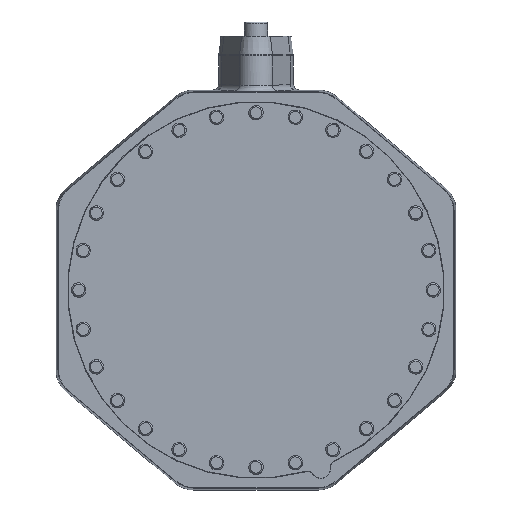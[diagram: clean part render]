
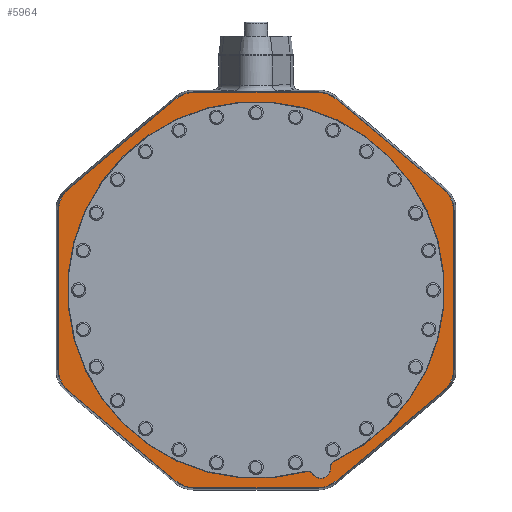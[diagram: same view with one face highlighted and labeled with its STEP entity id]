
A CAD part, front view. The second image highlights one B-rep face of the part: STEP entity #5964.
In plain terms, the highlighted planar face has unit normal (0, -1, 0) as drawn and (0, 0, 1) by its records, which use the part's own axes.
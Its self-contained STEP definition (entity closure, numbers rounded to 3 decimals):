
#5964=ADVANCED_FACE('',(#7983,#7984),#6615,.T.);
#6615=PLANE('',#14560);
#6895=LINE('',#18409,#7439);
#6896=LINE('',#18414,#7440);
#6897=LINE('',#18418,#7441);
#6898=LINE('',#18422,#7442);
#6899=LINE('',#18426,#7443);
#6900=LINE('',#18430,#7444);
#6901=LINE('',#18434,#7445);
#6902=LINE('',#18438,#7446);
#7439=VECTOR('',#15660,1.);
#7440=VECTOR('',#15663,1.);
#7441=VECTOR('',#15666,1.);
#7442=VECTOR('',#15669,1.);
#7443=VECTOR('',#15672,1.);
#7444=VECTOR('',#15675,1.);
#7445=VECTOR('',#15678,1.);
#7446=VECTOR('',#15681,1.);
#7983=FACE_BOUND('',#8194,.T.);
#7984=FACE_BOUND('',#8195,.T.);
#8194=EDGE_LOOP('',(#8980,#8981,#8982,#8983));
#8195=EDGE_LOOP('',(#8984,#8985,#8986,#8987,#8988,#8989,#8990,#8991,#8992,
#8993,#8994,#8995,#8996,#8997,#8998,#8999));
#8980=ORIENTED_EDGE('',*,*,#12704,.T.);
#8981=ORIENTED_EDGE('',*,*,#12705,.T.);
#8982=ORIENTED_EDGE('',*,*,#12706,.T.);
#8983=ORIENTED_EDGE('',*,*,#12707,.T.);
#8984=ORIENTED_EDGE('',*,*,#12708,.T.);
#8985=ORIENTED_EDGE('',*,*,#12709,.T.);
#8986=ORIENTED_EDGE('',*,*,#12710,.T.);
#8987=ORIENTED_EDGE('',*,*,#12711,.T.);
#8988=ORIENTED_EDGE('',*,*,#12712,.F.);
#8989=ORIENTED_EDGE('',*,*,#12713,.T.);
#8990=ORIENTED_EDGE('',*,*,#12714,.T.);
#8991=ORIENTED_EDGE('',*,*,#12715,.T.);
#8992=ORIENTED_EDGE('',*,*,#12716,.T.);
#8993=ORIENTED_EDGE('',*,*,#12717,.T.);
#8994=ORIENTED_EDGE('',*,*,#12718,.F.);
#8995=ORIENTED_EDGE('',*,*,#12719,.T.);
#8996=ORIENTED_EDGE('',*,*,#12720,.F.);
#8997=ORIENTED_EDGE('',*,*,#12721,.T.);
#8998=ORIENTED_EDGE('',*,*,#12722,.T.);
#8999=ORIENTED_EDGE('',*,*,#12723,.T.);
#11804=VERTEX_POINT('',#18402);
#11805=VERTEX_POINT('',#18403);
#11806=VERTEX_POINT('',#18405);
#11807=VERTEX_POINT('',#18407);
#11808=VERTEX_POINT('',#18410);
#11809=VERTEX_POINT('',#18411);
#11810=VERTEX_POINT('',#18413);
#11811=VERTEX_POINT('',#18415);
#11812=VERTEX_POINT('',#18417);
#11813=VERTEX_POINT('',#18419);
#11814=VERTEX_POINT('',#18421);
#11815=VERTEX_POINT('',#18423);
#11816=VERTEX_POINT('',#18425);
#11817=VERTEX_POINT('',#18427);
#11818=VERTEX_POINT('',#18429);
#11819=VERTEX_POINT('',#18431);
#11820=VERTEX_POINT('',#18433);
#11821=VERTEX_POINT('',#18435);
#11822=VERTEX_POINT('',#18437);
#11823=VERTEX_POINT('',#18439);
#12704=EDGE_CURVE('',#11804,#11805,#14116,.T.);
#12705=EDGE_CURVE('',#11805,#11806,#14117,.T.);
#12706=EDGE_CURVE('',#11806,#11807,#14118,.T.);
#12707=EDGE_CURVE('',#11807,#11804,#14119,.T.);
#12708=EDGE_CURVE('',#11808,#11809,#6895,.T.);
#12709=EDGE_CURVE('',#11809,#11810,#14120,.T.);
#12710=EDGE_CURVE('',#11810,#11811,#6896,.T.);
#12711=EDGE_CURVE('',#11811,#11812,#14121,.T.);
#12712=EDGE_CURVE('',#11813,#11812,#6897,.T.);
#12713=EDGE_CURVE('',#11813,#11814,#14122,.T.);
#12714=EDGE_CURVE('',#11814,#11815,#6898,.T.);
#12715=EDGE_CURVE('',#11815,#11816,#14123,.T.);
#12716=EDGE_CURVE('',#11816,#11817,#6899,.T.);
#12717=EDGE_CURVE('',#11817,#11818,#14124,.T.);
#12718=EDGE_CURVE('',#11819,#11818,#6900,.T.);
#12719=EDGE_CURVE('',#11819,#11820,#14125,.T.);
#12720=EDGE_CURVE('',#11821,#11820,#6901,.T.);
#12721=EDGE_CURVE('',#11821,#11822,#14126,.T.);
#12722=EDGE_CURVE('',#11822,#11823,#6902,.T.);
#12723=EDGE_CURVE('',#11823,#11808,#14127,.T.);
#14116=CIRCLE('',#14548,6.8);
#14117=CIRCLE('',#14549,4.7);
#14118=CIRCLE('',#14550,130.8);
#14119=CIRCLE('',#14551,4.7);
#14120=CIRCLE('',#14552,20.);
#14121=CIRCLE('',#14553,20.);
#14122=CIRCLE('',#14554,20.);
#14123=CIRCLE('',#14555,20.);
#14124=CIRCLE('',#14556,20.);
#14125=CIRCLE('',#14557,20.);
#14126=CIRCLE('',#14558,20.);
#14127=CIRCLE('',#14559,20.);
#14548=AXIS2_PLACEMENT_3D('',#18401,#15652,#15653);
#14549=AXIS2_PLACEMENT_3D('',#18404,#15654,#15655);
#14550=AXIS2_PLACEMENT_3D('',#18406,#15656,#15657);
#14551=AXIS2_PLACEMENT_3D('',#18408,#15658,#15659);
#14552=AXIS2_PLACEMENT_3D('',#18412,#15661,#15662);
#14553=AXIS2_PLACEMENT_3D('',#18416,#15664,#15665);
#14554=AXIS2_PLACEMENT_3D('',#18420,#15667,#15668);
#14555=AXIS2_PLACEMENT_3D('',#18424,#15670,#15671);
#14556=AXIS2_PLACEMENT_3D('',#18428,#15673,#15674);
#14557=AXIS2_PLACEMENT_3D('',#18432,#15676,#15677);
#14558=AXIS2_PLACEMENT_3D('',#18436,#15679,#15680);
#14559=AXIS2_PLACEMENT_3D('',#18440,#15682,#15683);
#14560=AXIS2_PLACEMENT_3D('',#18441,#15684,#15685);
#15652=DIRECTION('',(0.,0.,-1.));
#15653=DIRECTION('',(1.,0.,0.));
#15654=DIRECTION('',(0.,0.,1.));
#15655=DIRECTION('',(1.,0.,0.));
#15656=DIRECTION('',(0.,0.,-1.));
#15657=DIRECTION('',(1.,0.,0.));
#15658=DIRECTION('',(0.,0.,1.));
#15659=DIRECTION('',(1.,0.,0.));
#15660=DIRECTION('',(-0.766,-0.643,0.));
#15661=DIRECTION('',(0.,0.,1.));
#15662=DIRECTION('',(1.,0.,0.));
#15663=DIRECTION('',(0.,-1.,0.));
#15664=DIRECTION('',(0.,0.,1.));
#15665=DIRECTION('',(1.,0.,0.));
#15666=DIRECTION('',(-0.766,0.643,0.));
#15667=DIRECTION('',(0.,0.,1.));
#15668=DIRECTION('',(1.,0.,0.));
#15669=DIRECTION('',(1.,0.,0.));
#15670=DIRECTION('',(0.,0.,1.));
#15671=DIRECTION('',(1.,0.,0.));
#15672=DIRECTION('',(0.766,0.643,0.));
#15673=DIRECTION('',(0.,0.,1.));
#15674=DIRECTION('',(1.,0.,0.));
#15675=DIRECTION('',(0.,-1.,0.));
#15676=DIRECTION('',(0.,0.,1.));
#15677=DIRECTION('',(1.,0.,0.));
#15678=DIRECTION('',(0.766,-0.643,0.));
#15679=DIRECTION('',(0.,0.,1.));
#15680=DIRECTION('',(1.,0.,0.));
#15681=DIRECTION('',(-1.,0.,0.));
#15682=DIRECTION('',(0.,0.,1.));
#15683=DIRECTION('',(1.,0.,0.));
#15684=DIRECTION('',(0.,0.,1.));
#15685=DIRECTION('',(1.,0.,0.));
#18401=CARTESIAN_POINT('',(45.,-124.,124.78));
#18402=CARTESIAN_POINT('',(51.782,-123.51,124.78));
#18403=CARTESIAN_POINT('',(39.482,-127.974,124.78));
#18404=CARTESIAN_POINT('',(35.669,-130.721,124.78));
#18405=CARTESIAN_POINT('',(34.431,-126.187,124.78));
#18406=CARTESIAN_POINT('',(0.,0.,124.78));
#18407=CARTESIAN_POINT('',(54.511,-118.9,124.78));
#18408=CARTESIAN_POINT('',(56.47,-123.172,124.78));
#18409=CARTESIAN_POINT('',(-49.955,137.25,124.78));
#18410=CARTESIAN_POINT('',(-55.531,132.571,124.78));
#18411=CARTESIAN_POINT('',(-130.106,69.995,124.78));
#18412=CARTESIAN_POINT('',(-117.25,54.675,124.78));
#18413=CARTESIAN_POINT('',(-137.25,54.675,124.78));
#18414=CARTESIAN_POINT('',(-137.25,64.001,124.78));
#18415=CARTESIAN_POINT('',(-137.25,-54.675,124.78));
#18416=CARTESIAN_POINT('',(-117.25,-54.675,124.78));
#18417=CARTESIAN_POINT('',(-130.106,-69.995,124.78));
#18418=CARTESIAN_POINT('',(-49.955,-137.25,124.78));
#18419=CARTESIAN_POINT('',(-55.531,-132.571,124.78));
#18420=CARTESIAN_POINT('',(-42.676,-117.25,124.78));
#18421=CARTESIAN_POINT('',(-42.676,-137.25,124.78));
#18422=CARTESIAN_POINT('',(0.,-137.25,124.78));
#18423=CARTESIAN_POINT('',(42.676,-137.25,124.78));
#18424=CARTESIAN_POINT('',(42.676,-117.25,124.78));
#18425=CARTESIAN_POINT('',(55.531,-132.571,124.78));
#18426=CARTESIAN_POINT('',(49.955,-137.25,124.78));
#18427=CARTESIAN_POINT('',(130.106,-69.995,124.78));
#18428=CARTESIAN_POINT('',(117.25,-54.675,124.78));
#18429=CARTESIAN_POINT('',(137.25,-54.675,124.78));
#18430=CARTESIAN_POINT('',(137.25,64.001,124.78));
#18431=CARTESIAN_POINT('',(137.25,54.675,124.78));
#18432=CARTESIAN_POINT('',(117.25,54.675,124.78));
#18433=CARTESIAN_POINT('',(130.106,69.995,124.78));
#18434=CARTESIAN_POINT('',(49.955,137.25,124.78));
#18435=CARTESIAN_POINT('',(55.531,132.571,124.78));
#18436=CARTESIAN_POINT('',(42.676,117.25,124.78));
#18437=CARTESIAN_POINT('',(42.676,137.25,124.78));
#18438=CARTESIAN_POINT('',(0.,137.25,124.78));
#18439=CARTESIAN_POINT('',(-42.676,137.25,124.78));
#18440=CARTESIAN_POINT('',(-42.676,117.25,124.78));
#18441=CARTESIAN_POINT('',(-123.,0.,124.78));
